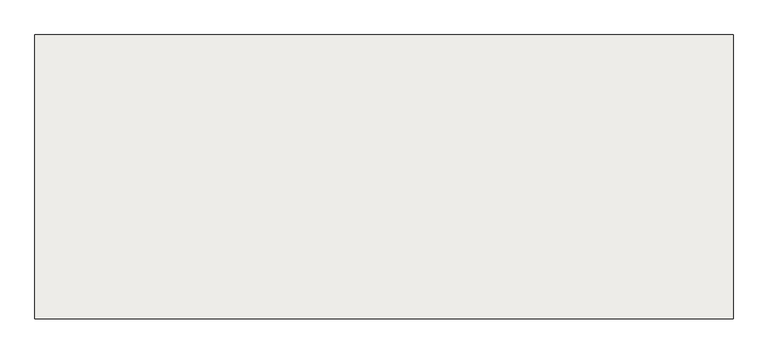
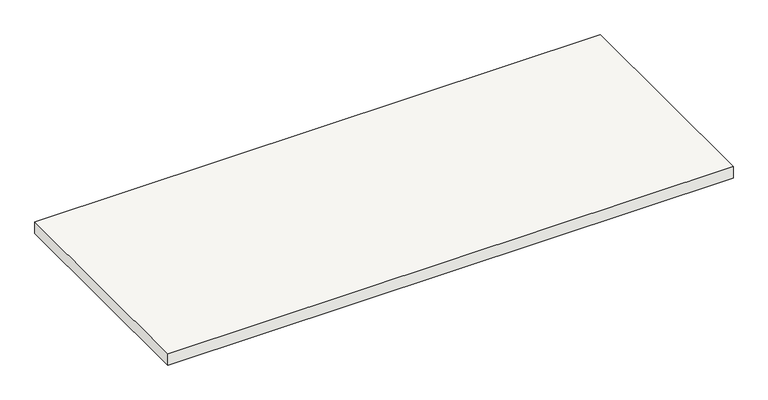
"""IFC4 building model written with IfcOpenShell, lengths in millimetres: slab geometry."""

from ifc_helpers import new_model, si_unit, frame, origin, place, context, project, spatial, polyline, outline, extrude, source, transform, mapped, element, save


def slab_49124384(model_context):
    return source(origin(), model_context, "Body", "SweptSolid", [
        extrude(outline(polyline([(1867.8, 759.99), (1867.79, -759.99), (-1867.8, -760.0), (-1867.8, 760.0), (1867.8, 759.99)])), frame((0.0, 0.0, -80.0), z_axis=(0.0, 0.0, 1.0), x_axis=(1.0, 0.0, 0.0)), (0.0, 0.0, 1.0), 80.0),
    ])


if __name__ == "__main__":
    model = new_model("IFC4")
    model_context = context("Model", 3, world=origin())
    ifc_project = project(units=[si_unit("LENGTHUNIT", "METRE", prefix="MILLI")], contexts=[model_context])
    site = spatial("IfcSite", under=ifc_project)
    building = spatial("IfcBuilding", under=site)
    placement = place(None, origin())
    slab_shape = slab_49124384(model_context)
    element("IfcSlab", 1, at=placement, inside=building, context=model_context, shape_type="MappedRepresentation", body=[
        mapped(slab_shape, transform((0.0, 0.0, 0.0), x_axis=(1.0, 0.0, 0.0), y_axis=(0.0, 1.0, 0.0), z_axis=(0.0, 0.0, 1.0))),
    ])
    save(model, "model.ifc")
